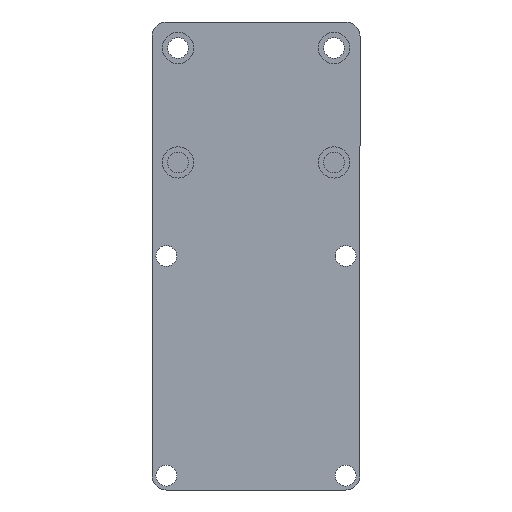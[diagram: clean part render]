
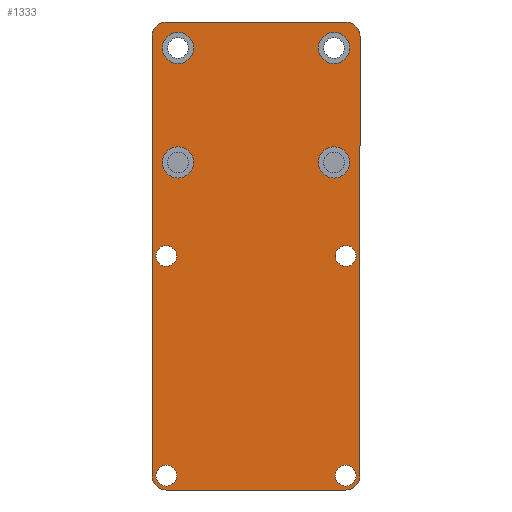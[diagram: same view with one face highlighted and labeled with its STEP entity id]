
A CAD part, front view. The second image highlights one B-rep face of the part: STEP entity #1333.
In plain terms, the highlighted planar face has unit normal (0, -1, 0).
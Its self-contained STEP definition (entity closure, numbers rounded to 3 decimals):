
#73=CARTESIAN_POINT('',(4.25,0.0,-39.0));
#74=VERTEX_POINT('',#73);
#75=CARTESIAN_POINT('',(2.25,0.0,-39.0));
#76=DIRECTION('',(0.0,1.0,0.0));
#77=DIRECTION('',(-1.0,0.0,0.0));
#78=AXIS2_PLACEMENT_3D('',#75,#76,#77);
#79=CIRCLE('',#78,2.0);
#80=EDGE_CURVE('',#74,#74,#79,.T.);
#101=CARTESIAN_POINT('',(-30.25,0.0,-39.));
#102=VERTEX_POINT('',#101);
#103=CARTESIAN_POINT('',(-32.25,0.0,-39.));
#104=DIRECTION('',(0.0,1.0,0.0));
#105=DIRECTION('',(-1.0,0.0,0.0));
#106=AXIS2_PLACEMENT_3D('',#103,#104,#105);
#107=CIRCLE('',#106,2.0);
#108=EDGE_CURVE('',#102,#102,#107,.T.);
#129=CARTESIAN_POINT('',(4.25,0.0,-81.25));
#130=VERTEX_POINT('',#129);
#131=CARTESIAN_POINT('',(2.25,0.0,-81.25));
#132=DIRECTION('',(0.0,1.0,0.0));
#133=DIRECTION('',(-1.0,0.0,0.0));
#134=AXIS2_PLACEMENT_3D('',#131,#132,#133);
#135=CIRCLE('',#134,2.0);
#136=EDGE_CURVE('',#130,#130,#135,.T.);
#157=CARTESIAN_POINT('',(-30.25,0.0,-81.25));
#158=VERTEX_POINT('',#157);
#159=CARTESIAN_POINT('',(-32.25,0.0,-81.25));
#160=DIRECTION('',(0.0,1.0,0.0));
#161=DIRECTION('',(-1.0,0.0,0.0));
#162=AXIS2_PLACEMENT_3D('',#159,#160,#161);
#163=CIRCLE('',#162,2.0);
#164=EDGE_CURVE('',#158,#158,#163,.T.);
#196=CARTESIAN_POINT('',(-32.25,0.0,-84.0));
#197=VERTEX_POINT('',#196);
#204=CARTESIAN_POINT('',(-35.,0.0,-81.25));
#205=VERTEX_POINT('',#204);
#206=CARTESIAN_POINT('',(-32.25,0.0,-81.25));
#207=DIRECTION('',(0.0,1.0,0.0));
#208=DIRECTION('',(-0.707,0.0,-0.707));
#209=AXIS2_PLACEMENT_3D('',#206,#207,#208);
#210=CIRCLE('',#209,2.75);
#211=EDGE_CURVE('',#197,#205,#210,.T.);
#236=CARTESIAN_POINT('',(2.25,0.0,-84.0));
#237=VERTEX_POINT('',#236);
#244=CARTESIAN_POINT('',(2.25,0.0,-84.0));
#245=DIRECTION('',(-1.0,0.0,0.0));
#246=VECTOR('',#245,34.5);
#247=LINE('',#244,#246);
#248=EDGE_CURVE('',#237,#197,#247,.T.);
#374=CARTESIAN_POINT('',(-35.0,0.0,3.25));
#375=VERTEX_POINT('',#374);
#382=CARTESIAN_POINT('',(-32.25,0.0,6.));
#383=VERTEX_POINT('',#382);
#384=CARTESIAN_POINT('',(-32.25,0.0,3.25));
#385=DIRECTION('',(0.0,1.0,0.0));
#386=DIRECTION('',(-0.707,0.0,0.707));
#387=AXIS2_PLACEMENT_3D('',#384,#385,#386);
#388=CIRCLE('',#387,2.75);
#389=EDGE_CURVE('',#375,#383,#388,.T.);
#406=CARTESIAN_POINT('',(2.25,0.0,6.));
#407=VERTEX_POINT('',#406);
#408=CARTESIAN_POINT('',(-32.25,0.0,6.));
#409=DIRECTION('',(1.0,0.0,0.0));
#410=VECTOR('',#409,34.5);
#411=LINE('',#408,#410);
#412=EDGE_CURVE('',#383,#407,#411,.T.);
#431=CARTESIAN_POINT('',(5.,0.0,3.25));
#432=VERTEX_POINT('',#431);
#433=CARTESIAN_POINT('',(2.25,0.0,3.25));
#434=DIRECTION('',(0.0,1.0,0.0));
#435=DIRECTION('',(0.707,0.0,0.707));
#436=AXIS2_PLACEMENT_3D('',#433,#434,#435);
#437=CIRCLE('',#436,2.75);
#438=EDGE_CURVE('',#407,#432,#437,.T.);
#455=CARTESIAN_POINT('',(5.,0.0,-81.25));
#456=VERTEX_POINT('',#455);
#463=CARTESIAN_POINT('',(2.25,0.0,-81.25));
#464=DIRECTION('',(0.0,1.0,0.0));
#465=DIRECTION('',(0.707,0.0,-0.707));
#466=AXIS2_PLACEMENT_3D('',#463,#464,#465);
#467=CIRCLE('',#466,2.75);
#468=EDGE_CURVE('',#456,#237,#467,.T.);
#1036=CARTESIAN_POINT('',(-27.,0.0,-21.));
#1037=VERTEX_POINT('',#1036);
#1038=CARTESIAN_POINT('',(-30.,0.0,-21.));
#1039=DIRECTION('',(0.0,1.0,0.0));
#1040=DIRECTION('',(-1.0,0.0,0.0));
#1041=AXIS2_PLACEMENT_3D('',#1038,#1039,#1040);
#1042=CIRCLE('',#1041,3.0);
#1043=EDGE_CURVE('',#1037,#1037,#1042,.T.);
#1084=CARTESIAN_POINT('',(3.,0.0,-21.));
#1085=VERTEX_POINT('',#1084);
#1086=CARTESIAN_POINT('',(0.,0.0,-21.));
#1087=DIRECTION('',(0.0,1.0,0.0));
#1088=DIRECTION('',(-1.0,0.0,0.0));
#1089=AXIS2_PLACEMENT_3D('',#1086,#1087,#1088);
#1090=CIRCLE('',#1089,3.0);
#1091=EDGE_CURVE('',#1085,#1085,#1090,.T.);
#1132=CARTESIAN_POINT('',(3.,0.0,1.));
#1133=VERTEX_POINT('',#1132);
#1134=CARTESIAN_POINT('',(0.,0.0,1.));
#1135=DIRECTION('',(0.0,1.0,0.0));
#1136=DIRECTION('',(-1.0,0.0,0.0));
#1137=AXIS2_PLACEMENT_3D('',#1134,#1135,#1136);
#1138=CIRCLE('',#1137,3.0);
#1139=EDGE_CURVE('',#1133,#1133,#1138,.T.);
#1180=CARTESIAN_POINT('',(-27.,0.0,1.));
#1181=VERTEX_POINT('',#1180);
#1182=CARTESIAN_POINT('',(-30.,0.0,1.));
#1183=DIRECTION('',(0.0,1.0,0.0));
#1184=DIRECTION('',(-1.0,0.0,0.0));
#1185=AXIS2_PLACEMENT_3D('',#1182,#1183,#1184);
#1186=CIRCLE('',#1185,3.0);
#1187=EDGE_CURVE('',#1181,#1181,#1186,.T.);
#1266=CARTESIAN_POINT('',(5.,0.0,3.25));
#1267=DIRECTION('',(0.0,0.0,-1.0));
#1268=VECTOR('',#1267,84.5);
#1269=LINE('',#1266,#1268);
#1270=EDGE_CURVE('',#432,#456,#1269,.T.);
#1283=CARTESIAN_POINT('',(-35.,0.0,-81.25));
#1284=DIRECTION('',(0.0,0.0,1.0));
#1285=VECTOR('',#1284,84.5);
#1286=LINE('',#1283,#1285);
#1287=EDGE_CURVE('',#205,#375,#1286,.T.);
#1294=CARTESIAN_POINT('',(-15.,0.0,-39.));
#1295=DIRECTION('',(0.0,1.0,0.0));
#1296=DIRECTION('',(0.0,0.0,1.0));
#1297=AXIS2_PLACEMENT_3D('',#1294,#1295,#1296);
#1298=PLANE('',#1297);
#1299=ORIENTED_EDGE('',*,*,#211,.F.);
#1300=ORIENTED_EDGE('',*,*,#248,.F.);
#1301=ORIENTED_EDGE('',*,*,#468,.F.);
#1302=ORIENTED_EDGE('',*,*,#1270,.F.);
#1303=ORIENTED_EDGE('',*,*,#438,.F.);
#1304=ORIENTED_EDGE('',*,*,#412,.F.);
#1305=ORIENTED_EDGE('',*,*,#389,.F.);
#1306=ORIENTED_EDGE('',*,*,#1287,.F.);
#1307=EDGE_LOOP('',(#1299,#1300,#1301,#1302,#1303,#1304,#1305,#1306));
#1308=FACE_OUTER_BOUND('',#1307,.T.);
#1309=ORIENTED_EDGE('',*,*,#80,.T.);
#1310=EDGE_LOOP('',(#1309));
#1311=FACE_BOUND('',#1310,.T.);
#1312=ORIENTED_EDGE('',*,*,#108,.T.);
#1313=EDGE_LOOP('',(#1312));
#1314=FACE_BOUND('',#1313,.T.);
#1315=ORIENTED_EDGE('',*,*,#136,.T.);
#1316=EDGE_LOOP('',(#1315));
#1317=FACE_BOUND('',#1316,.T.);
#1318=ORIENTED_EDGE('',*,*,#164,.T.);
#1319=EDGE_LOOP('',(#1318));
#1320=FACE_BOUND('',#1319,.T.);
#1321=ORIENTED_EDGE('',*,*,#1043,.T.);
#1322=EDGE_LOOP('',(#1321));
#1323=FACE_BOUND('',#1322,.T.);
#1324=ORIENTED_EDGE('',*,*,#1091,.T.);
#1325=EDGE_LOOP('',(#1324));
#1326=FACE_BOUND('',#1325,.T.);
#1327=ORIENTED_EDGE('',*,*,#1139,.T.);
#1328=EDGE_LOOP('',(#1327));
#1329=FACE_BOUND('',#1328,.T.);
#1330=ORIENTED_EDGE('',*,*,#1187,.T.);
#1331=EDGE_LOOP('',(#1330));
#1332=FACE_BOUND('',#1331,.T.);
#1333=ADVANCED_FACE('',(#1308,#1311,#1314,#1317,#1320,#1323,#1326,#1329,#1332),#1298,.F.);
